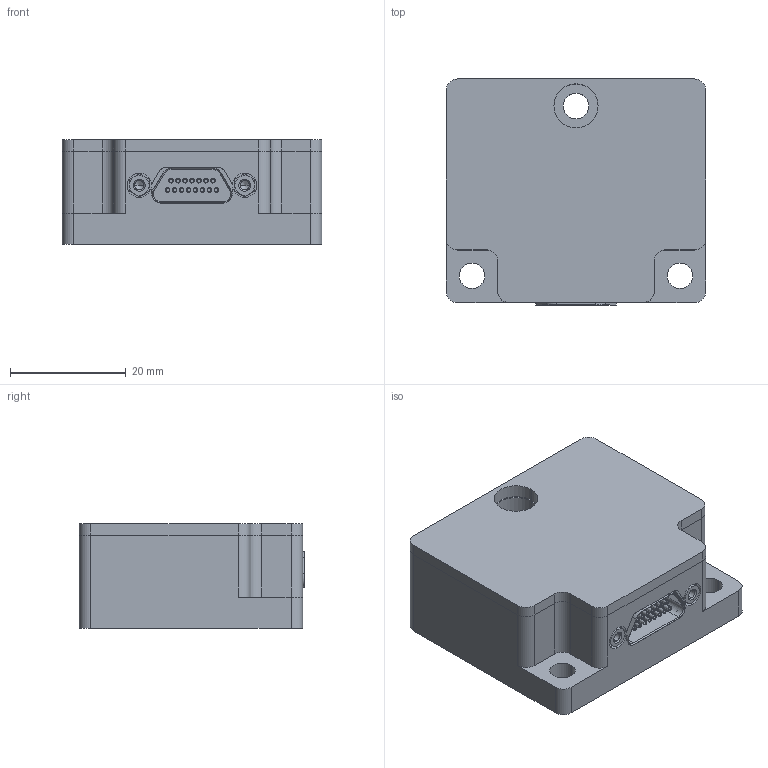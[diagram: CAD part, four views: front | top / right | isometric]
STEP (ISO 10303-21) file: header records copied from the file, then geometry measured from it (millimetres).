
FILE_DESCRIPTION (( 'STEP AP203' ), '1' );
FILE_NAME ('HI70-3D.STEP', '2025-08-04T08:38:46', ( '' ), ( '' ), 'SwSTEP 2.0', 'SolidWorks 2016', '' );
FILE_SCHEMA (( 'CONFIG_CONTROL_DESIGN' ));
Length unit declared in the file: millimetre
Products named in the file (1): HI70-3D
Bounding box: 44.8 x 39 x 18.1 mm (x, y, z)
Volume: 10131.4 mm3; surface area: 13803.7 mm2
Topology: 3 solids, 3 shells, 377 faces, 932 edges, 582 vertices
Faces by surface type: cylinder 180, plane 130, cone 67
Entity records: 11197 total; most frequent: DIRECTION 2056, CARTESIAN_POINT 1919, ORIENTED_EDGE 1832, EDGE_CURVE 916, AXIS2_PLACEMENT_3D 767, VERTEX_POINT 582, VECTOR 522, LINE 522
